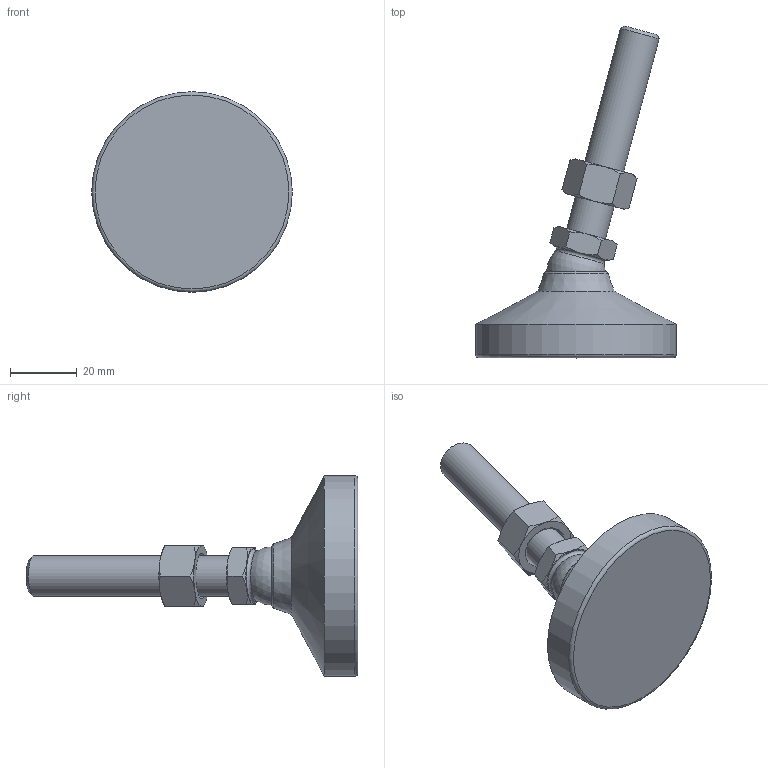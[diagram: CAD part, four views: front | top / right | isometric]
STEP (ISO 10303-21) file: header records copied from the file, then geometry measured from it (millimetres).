
FILE_DESCRIPTION( ( 'STEP AP214' ), ' ' );
FILE_NAME( 'O:/ganter_2015/teil_2/2_5/gn343_2/gn343_2_kre/Levelling foot with threaded stud GN 343.2-60-M12-63-KRE-(-15).stp', '2015-10-26T09:19:58', ( '' ), ( '' ), ' ', 'PARTsolutions', ' ' );
FILE_SCHEMA( ( 'AUTOMOTIVE_DESIGN { 1 0 10303 214 1 1 1 1 }' ) );
Length unit declared in the file: millimetre
Products named in the file (4): Levelling foot with threaded stud GN 343.2-60-M12-63-KRE-(-15); _Levelling foot with threaded stud GN 343.2-60-M12-63-KRE-(-15)_foot; _Levelling foot with threaded stud GN 343.2-60-M12-63-KRE-(-15)_screw; _Levelling foot with threaded stud GN 343.2-60-M12-63-KRE-(-15)_nut
Assembly tree (3 placements, depth 2):
  Levelling foot with threaded stud GN 343.2-60-M12-63-KRE-(-15)
    _Levelling foot with threaded stud GN 343.2-60-M12-63-KRE-(-15)_foot
    _Levelling foot with threaded stud GN 343.2-60-M12-63-KRE-(-15)_screw
    _Levelling foot with threaded stud GN 343.2-60-M12-63-KRE-(-15)_nut
Bounding box: 60 x 99.25 x 60 mm (x, y, z)
Volume: 56423.9 mm3; surface area: 13418 mm2
Topology: 3 solids, 3 shells, 56 faces, 117 edges, 68 vertices
Faces by surface type: cone 29, plane 19, torus 3, cylinder 3, sphere 2
Full cylindrical faces by diameter (mm): 10.106 x1, 12 x1, 60 x1
Entity records: 2066 total; most frequent: CARTESIAN_POINT 498, DIRECTION 212, ORIENTED_EDGE 200, AXIS2_PLACEMENT_3D 100, EDGE_CURVE 100, EDGE_LOOP 72, VERTEX_POINT 66, FACE_OUTER_BOUND 62
